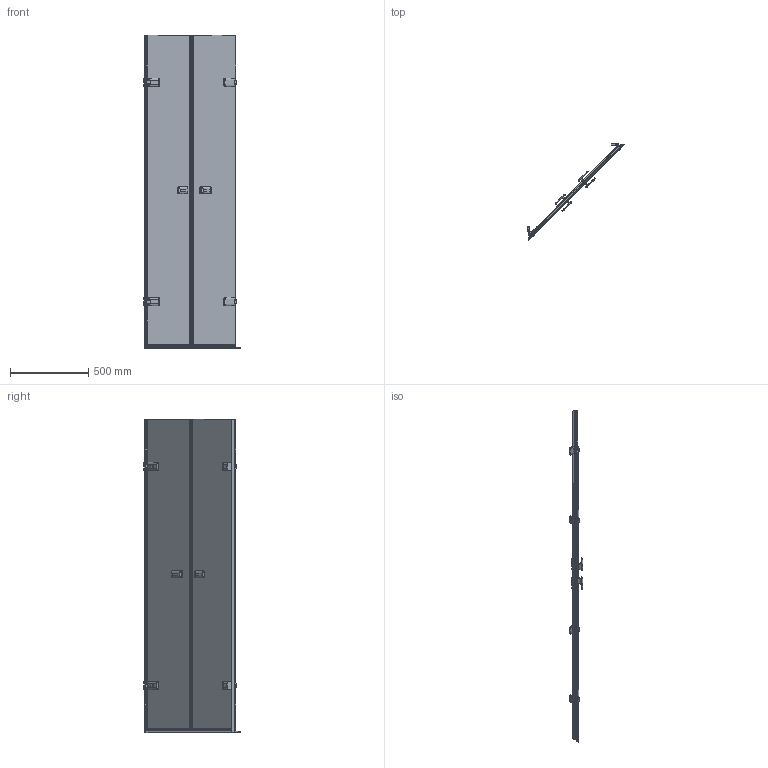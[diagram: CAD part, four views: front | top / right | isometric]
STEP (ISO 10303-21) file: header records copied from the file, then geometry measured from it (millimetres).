
FILE_DESCRIPTION(/* description */ (''),/* implementation_level */ '2;1');
FILE_NAME(/* name */ 'D:\4\!!\TREND DOOR GK-862G135\TREND DOOR GK-862G135-3D.stp',/* time_stamp */ '2017-09-28T10:23:25+03:00',/* author */ ('ChechurovS'),/* organization */ (''),/* preprocessor_version */ 'ST-DEVELOPER v15.2',/* originating_system */ 'Autodesk Inventor 2014',/* authorisation */ '');
FILE_SCHEMA (('CONFIG_CONTROL_DESIGN'));
Length unit declared in the file: millimetre
Products named in the file (1): TREND DOOR GK-862G135-3D
Bounding box: 614.18 x 614.18 x 2000 mm (x, y, z)
Volume: 10790666.4 mm3; surface area: 3948643.8 mm2
Topology: 8 solids, 12 shells, 1290 faces, 3634 edges, 2276 vertices
Faces by surface type: plane 743, cylinder 407, bspline 96, torus 32, sphere 8, cone 4
Full cylindrical faces by diameter (mm): 12 x4
Entity records: 47439 total; most frequent: CARTESIAN_POINT 12763, ORIENTED_EDGE 7140, DIRECTION 6784, EDGE_CURVE 3566, LINE 2498, VECTOR 2498, VERTEX_POINT 2272, AXIS2_PLACEMENT_3D 2143
